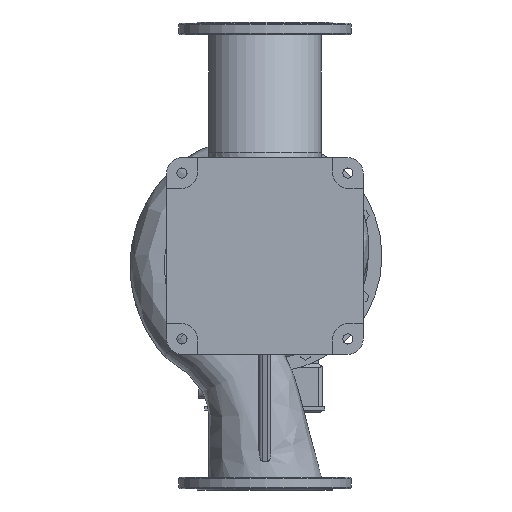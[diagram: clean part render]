
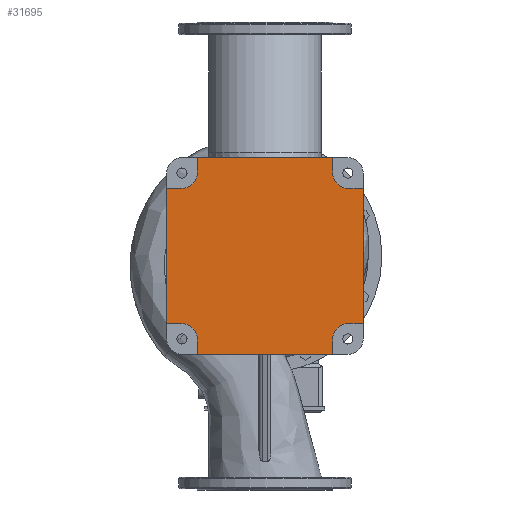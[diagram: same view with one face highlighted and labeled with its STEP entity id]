
A CAD part, front view. The second image highlights one B-rep face of the part: STEP entity #31695.
In plain terms, the highlighted planar face has unit normal (0, -1, 0).
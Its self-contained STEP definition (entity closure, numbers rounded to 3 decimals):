
#151 = CARTESIAN_POINT ( 'NONE',  ( 159., -295., -231. ) ) ;
#296 = CARTESIAN_POINT ( 'NONE',  ( -195., -295., -159. ) ) ;
#355 = DIRECTION ( 'NONE',  ( 0., 0., 1. ) ) ;
#438 = AXIS2_PLACEMENT_3D ( 'NONE', #23081, #31309, #6712 ) ;
#1049 = DIRECTION ( 'NONE',  ( 0., 1., 0. ) ) ;
#1311 = CARTESIAN_POINT ( 'NONE',  ( 231., -295., -159. ) ) ;
#1559 = VECTOR ( 'NONE', #1934, 1000. ) ;
#1934 = DIRECTION ( 'NONE',  ( 1., 0., 0. ) ) ;
#2212 = CARTESIAN_POINT ( 'NONE',  ( 159., -295., -195. ) ) ;
#2552 = DIRECTION ( 'NONE',  ( 0., 0., 1. ) ) ;
#2602 = CARTESIAN_POINT ( 'NONE',  ( 159., -295., -195. ) ) ;
#2792 = CARTESIAN_POINT ( 'NONE',  ( 231., -295., 159. ) ) ;
#2996 = VERTEX_POINT ( 'NONE', #3538 ) ;
#3065 = ORIENTED_EDGE ( 'NONE', *, *, #17036, .T. ) ;
#3246 = VECTOR ( 'NONE', #17473, 1000. ) ;
#3489 = ORIENTED_EDGE ( 'NONE', *, *, #8530, .T. ) ;
#3538 = CARTESIAN_POINT ( 'NONE',  ( 195., -295., 159. ) ) ;
#3652 = ORIENTED_EDGE ( 'NONE', *, *, #13666, .T. ) ;
#4011 = CARTESIAN_POINT ( 'NONE',  ( -159., -295., -231. ) ) ;
#4060 = VERTEX_POINT ( 'NONE', #9479 ) ;
#4095 = CARTESIAN_POINT ( 'NONE',  ( -159., -295., 231. ) ) ;
#4385 = VERTEX_POINT ( 'NONE', #16664 ) ;
#4403 = LINE ( 'NONE', #13220, #34460 ) ;
#4748 = EDGE_CURVE ( 'NONE', #18595, #16856, #4403, .T. ) ;
#4761 = DIRECTION ( 'NONE',  ( 0., 0., 1. ) ) ;
#4861 = VERTEX_POINT ( 'NONE', #2792 ) ;
#5000 = ORIENTED_EDGE ( 'NONE', *, *, #21612, .T. ) ;
#5926 = CARTESIAN_POINT ( 'NONE',  ( 231., -295., 159. ) ) ;
#6028 = EDGE_LOOP ( 'NONE', ( #3065, #14143, #22472, #6995, #3652, #28836, #16710, #12530, #20436, #31344, #20501, #3489, #14173, #25498, #5000, #33232 ) ) ;
#6248 = CIRCLE ( 'NONE', #26309, 36. ) ;
#6569 = CIRCLE ( 'NONE', #17386, 36. ) ;
#6588 = LINE ( 'NONE', #17535, #20150 ) ;
#6712 = DIRECTION ( 'NONE',  ( 0., 0., 1. ) ) ;
#6862 = AXIS2_PLACEMENT_3D ( 'NONE', #25652, #1049, #355 ) ;
#6995 = ORIENTED_EDGE ( 'NONE', *, *, #30816, .T. ) ;
#7384 = EDGE_CURVE ( 'NONE', #4060, #20137, #10409, .T. ) ;
#8039 = EDGE_CURVE ( 'NONE', #12863, #4385, #14773, .T. ) ;
#8211 = DIRECTION ( 'NONE',  ( 0., 0., -1. ) ) ;
#8530 = EDGE_CURVE ( 'NONE', #25699, #32369, #13419, .T. ) ;
#8769 = CARTESIAN_POINT ( 'NONE',  ( -159., -295., 195. ) ) ;
#9149 = VERTEX_POINT ( 'NONE', #17134 ) ;
#9479 = CARTESIAN_POINT ( 'NONE',  ( -159., -295., -195. ) ) ;
#10409 = LINE ( 'NONE', #35005, #29007 ) ;
#10628 = CARTESIAN_POINT ( 'NONE',  ( -195., -295., -195. ) ) ;
#11262 = LINE ( 'NONE', #11966, #29459 ) ;
#11277 = EDGE_CURVE ( 'NONE', #32369, #15240, #22365, .T. ) ;
#11306 = LINE ( 'NONE', #5926, #11517 ) ;
#11324 = EDGE_CURVE ( 'NONE', #4385, #25699, #12714, .T. ) ;
#11488 = VECTOR ( 'NONE', #23025, 1000. ) ;
#11517 = VECTOR ( 'NONE', #19040, 1000. ) ;
#11849 = DIRECTION ( 'NONE',  ( 0., 1., 0. ) ) ;
#11966 = CARTESIAN_POINT ( 'NONE',  ( 195., -295., 159. ) ) ;
#12059 = LINE ( 'NONE', #16925, #11488 ) ;
#12471 = EDGE_CURVE ( 'NONE', #16856, #4861, #11306, .T. ) ;
#12530 = ORIENTED_EDGE ( 'NONE', *, *, #19545, .T. ) ;
#12714 = LINE ( 'NONE', #4095, #13233 ) ;
#12812 = EDGE_CURVE ( 'NONE', #15240, #9149, #6588, .T. ) ;
#12832 = CARTESIAN_POINT ( 'NONE',  ( -195., -295., 159. ) ) ;
#12863 = VERTEX_POINT ( 'NONE', #13895 ) ;
#12864 = DIRECTION ( 'NONE',  ( 0., 1., 0. ) ) ;
#13220 = CARTESIAN_POINT ( 'NONE',  ( 195., -295., -159. ) ) ;
#13233 = VECTOR ( 'NONE', #23489, 1000. ) ;
#13419 = LINE ( 'NONE', #19157, #27925 ) ;
#13666 = EDGE_CURVE ( 'NONE', #24275, #18595, #33381, .T. ) ;
#13895 = CARTESIAN_POINT ( 'NONE',  ( 159., -295., 195. ) ) ;
#14143 = ORIENTED_EDGE ( 'NONE', *, *, #7384, .T. ) ;
#14173 = ORIENTED_EDGE ( 'NONE', *, *, #11277, .T. ) ;
#14279 = PLANE ( 'NONE',  #438 ) ;
#14377 = VERTEX_POINT ( 'NONE', #296 ) ;
#14773 = LINE ( 'NONE', #34333, #3246 ) ;
#14842 = DIRECTION ( 'NONE',  ( -1., 0., 0. ) ) ;
#15240 = VERTEX_POINT ( 'NONE', #12832 ) ;
#15590 = CARTESIAN_POINT ( 'NONE',  ( -231., -295., -159. ) ) ;
#15887 = LINE ( 'NONE', #2602, #34219 ) ;
#16664 = CARTESIAN_POINT ( 'NONE',  ( 159., -295., 231. ) ) ;
#16710 = ORIENTED_EDGE ( 'NONE', *, *, #12471, .T. ) ;
#16856 = VERTEX_POINT ( 'NONE', #1311 ) ;
#16925 = CARTESIAN_POINT ( 'NONE',  ( -231., -295., -159. ) ) ;
#17036 = EDGE_CURVE ( 'NONE', #14377, #4060, #6569, .T. ) ;
#17134 = CARTESIAN_POINT ( 'NONE',  ( -231., -295., 159. ) ) ;
#17330 = FACE_OUTER_BOUND ( 'NONE', #6028, .T. ) ;
#17386 = AXIS2_PLACEMENT_3D ( 'NONE', #10628, #32528, #2552 ) ;
#17473 = DIRECTION ( 'NONE',  ( 0., 0., 1. ) ) ;
#17535 = CARTESIAN_POINT ( 'NONE',  ( -195., -295., 159. ) ) ;
#18399 = EDGE_CURVE ( 'NONE', #23616, #14377, #21970, .T. ) ;
#18595 = VERTEX_POINT ( 'NONE', #28919 ) ;
#19040 = DIRECTION ( 'NONE',  ( 0., 0., 1. ) ) ;
#19157 = CARTESIAN_POINT ( 'NONE',  ( -159., -295., 195. ) ) ;
#19464 = VERTEX_POINT ( 'NONE', #151 ) ;
#19497 = CARTESIAN_POINT ( 'NONE',  ( -159., -295., 231. ) ) ;
#19545 = EDGE_CURVE ( 'NONE', #4861, #2996, #11262, .T. ) ;
#20137 = VERTEX_POINT ( 'NONE', #4011 ) ;
#20150 = VECTOR ( 'NONE', #14842, 1000. ) ;
#20436 = ORIENTED_EDGE ( 'NONE', *, *, #25403, .T. ) ;
#20451 = CARTESIAN_POINT ( 'NONE',  ( 195., -295., -195. ) ) ;
#20501 = ORIENTED_EDGE ( 'NONE', *, *, #11324, .T. ) ;
#20617 = CARTESIAN_POINT ( 'NONE',  ( 159., -295., -231. ) ) ;
#20723 = AXIS2_PLACEMENT_3D ( 'NONE', #20451, #11849, #25344 ) ;
#21612 = EDGE_CURVE ( 'NONE', #9149, #23616, #12059, .T. ) ;
#21970 = LINE ( 'NONE', #29674, #22039 ) ;
#22039 = VECTOR ( 'NONE', #32904, 1000. ) ;
#22365 = CIRCLE ( 'NONE', #6862, 36. ) ;
#22472 = ORIENTED_EDGE ( 'NONE', *, *, #23622, .T. ) ;
#23025 = DIRECTION ( 'NONE',  ( 0., 0., -1. ) ) ;
#23081 = CARTESIAN_POINT ( 'NONE',  ( -195., -295., -195. ) ) ;
#23489 = DIRECTION ( 'NONE',  ( -1., 0., 0. ) ) ;
#23616 = VERTEX_POINT ( 'NONE', #15590 ) ;
#23622 = EDGE_CURVE ( 'NONE', #20137, #19464, #26009, .T. ) ;
#23642 = DIRECTION ( 'NONE',  ( 1., 0., 0. ) ) ;
#23651 = CARTESIAN_POINT ( 'NONE',  ( 195., -295., 195. ) ) ;
#24275 = VERTEX_POINT ( 'NONE', #2212 ) ;
#25344 = DIRECTION ( 'NONE',  ( 0., 0., 1. ) ) ;
#25403 = EDGE_CURVE ( 'NONE', #2996, #12863, #6248, .T. ) ;
#25498 = ORIENTED_EDGE ( 'NONE', *, *, #12812, .T. ) ;
#25652 = CARTESIAN_POINT ( 'NONE',  ( -195., -295., 195. ) ) ;
#25699 = VERTEX_POINT ( 'NONE', #19497 ) ;
#26009 = LINE ( 'NONE', #20617, #1559 ) ;
#26309 = AXIS2_PLACEMENT_3D ( 'NONE', #23651, #12864, #34582 ) ;
#27925 = VECTOR ( 'NONE', #8211, 1000. ) ;
#28310 = DIRECTION ( 'NONE',  ( -1., 0., 0. ) ) ;
#28336 = DIRECTION ( 'NONE',  ( 0., 0., -1. ) ) ;
#28836 = ORIENTED_EDGE ( 'NONE', *, *, #4748, .T. ) ;
#28919 = CARTESIAN_POINT ( 'NONE',  ( 195., -295., -159. ) ) ;
#29007 = VECTOR ( 'NONE', #28336, 1000. ) ;
#29459 = VECTOR ( 'NONE', #28310, 1000. ) ;
#29674 = CARTESIAN_POINT ( 'NONE',  ( -195., -295., -159. ) ) ;
#30816 = EDGE_CURVE ( 'NONE', #19464, #24275, #15887, .T. ) ;
#31309 = DIRECTION ( 'NONE',  ( 0., 1., 0. ) ) ;
#31344 = ORIENTED_EDGE ( 'NONE', *, *, #8039, .T. ) ;
#31695 = ADVANCED_FACE ( 'NONE', ( #17330 ), #14279, .F. ) ;
#32369 = VERTEX_POINT ( 'NONE', #8769 ) ;
#32528 = DIRECTION ( 'NONE',  ( 0., 1., 0. ) ) ;
#32904 = DIRECTION ( 'NONE',  ( 1., 0., 0. ) ) ;
#33232 = ORIENTED_EDGE ( 'NONE', *, *, #18399, .T. ) ;
#33381 = CIRCLE ( 'NONE', #20723, 36. ) ;
#34219 = VECTOR ( 'NONE', #4761, 1000. ) ;
#34333 = CARTESIAN_POINT ( 'NONE',  ( 159., -295., 195. ) ) ;
#34460 = VECTOR ( 'NONE', #23642, 1000. ) ;
#34582 = DIRECTION ( 'NONE',  ( 0., 0., 1. ) ) ;
#35005 = CARTESIAN_POINT ( 'NONE',  ( -159., -295., -195. ) ) ;
